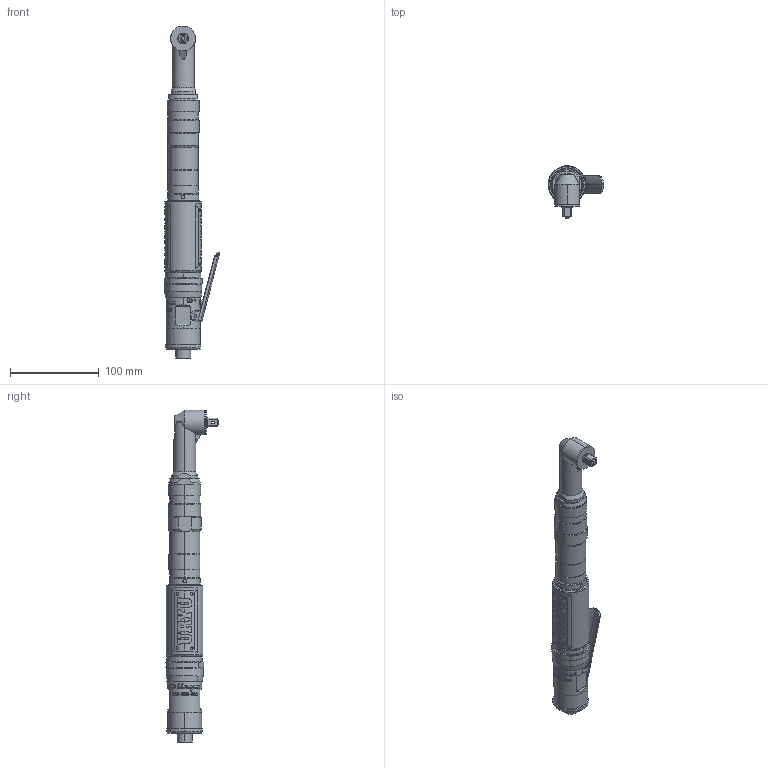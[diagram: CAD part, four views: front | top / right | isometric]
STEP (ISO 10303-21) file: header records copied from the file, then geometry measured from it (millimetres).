
FILE_DESCRIPTION (( 'STEP AP203' ), '1' );
FILE_NAME ('UAN-611R-30C.STEP', '2007-10-26T06:19:43', ( 'gikai-nt16' ), ( ' ' ), 'SwSTEP 2.0', 'SolidWorks 2003240', '' );
FILE_SCHEMA (( 'CONFIG_CONTROL_DESIGN' ));
Length unit declared in the file: millimetre
Products named in the file (11): 2688406_UAN-611R-30C_蹬怮椔; 2597806_UAN-611R-30C_蹬怮椔; 2591140_UAN-611R-30C_蹬怮椔; UAN-611R-30C; 2583195_UAN-611R-30C_蹬怮椔; 2684416_蹬怮椔; 2683696_UAN-611R-30C_蹬怮椔; 4630298_UAN-611R-30C_蹬怮椔; 2680257_UAN-611R-30C_蹬怮椔; 1961077_UAN-611R-30C_蹬怮椔; 2682126_UAN-611R-30C_蹬怮椔
Assembly tree (10 placements, depth 2):
  UAN-611R-30C
    2682126_UAN-611R-30C_蹬怮椔
    2688406_UAN-611R-30C_蹬怮椔
    2684416_蹬怮椔
    1961077_UAN-611R-30C_蹬怮椔
    2683696_UAN-611R-30C_蹬怮椔
    4630298_UAN-611R-30C_蹬怮椔
    2680257_UAN-611R-30C_蹬怮椔
    2583195_UAN-611R-30C_蹬怮椔
    2597806_UAN-611R-30C_蹬怮椔
    2591140_UAN-611R-30C_蹬怮椔
Bounding box: 62.79 x 59.42 x 373.2 mm (x, y, z)
Volume: 372396.9 mm3; surface area: 85788.7 mm2
Topology: 10 solids, 10 shells, 937 faces, 2450 edges, 1610 vertices
Faces by surface type: plane 438, cylinder 339, bspline 107, cone 43, torus 8, sphere 2
Entity records: 39057 total; most frequent: CARTESIAN_POINT 16137, ORIENTED_EDGE 4896, DIRECTION 4031, EDGE_CURVE 2448, VERTEX_POINT 1610, AXIS2_PLACEMENT_3D 1465, LINE 1101, VECTOR 1101
